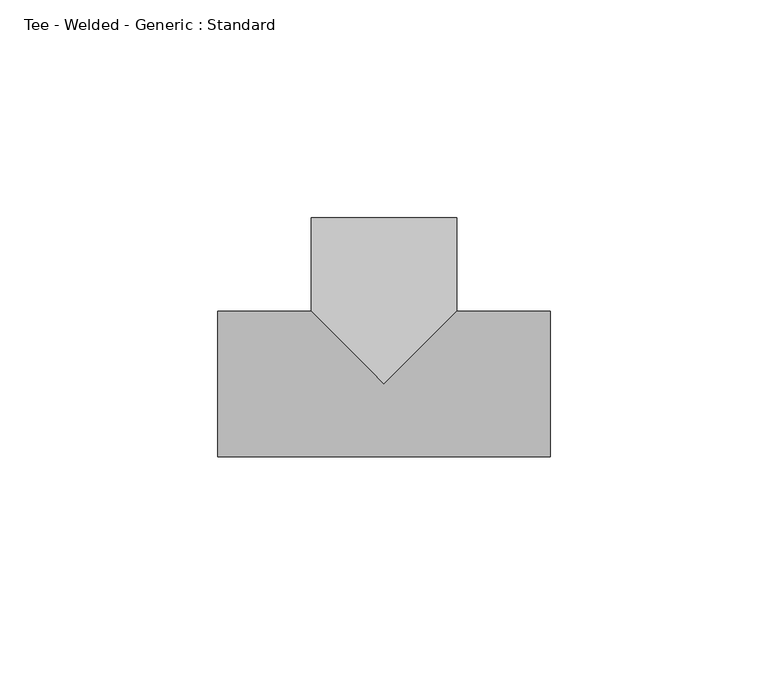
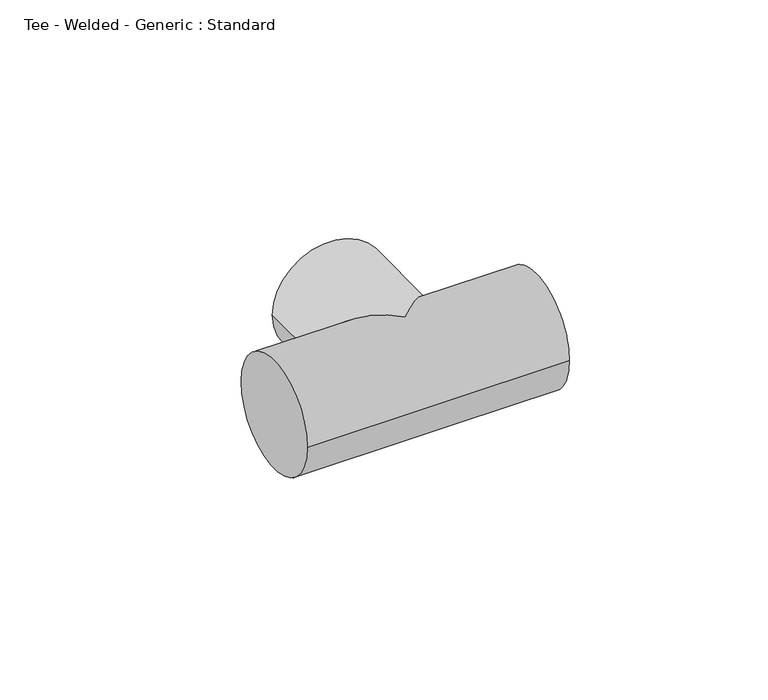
"""IFC4 building model written with IfcOpenShell, lengths in millimetres: pipe fitting geometry, Tee - Welded - Generic : Standard."""

from ifc_helpers import new_model, si_unit, frame, origin, place, context, project, spatial, circle_curve, ellipse_curve, source, transform, mapped, element, save
from ifc_brep_helpers import plane_surface, cylinder_surface, advanced_brep


def tee_welded_generic_standard_7332b987(model_context):
    return source(origin(), model_context, "Body", "AdvancedBrep", [
        advanced_brep(
        [(-38.1, 16.66875, 0.0), (-38.1, -16.66875, 0.0), (38.1, 16.66875, 0.0), (38.1, -16.66875, 0.0), (16.672995, 16.66875, 0.0), (0.0, 0.0, 16.66875), (-16.664506, 16.66875, 0.0), (0.0, 0.0, -16.66875), (-16.6590477, 38.1042433, 0.0), (16.6784512, 38.0957543, 0.0)],
        [
            (0, 1, circle_curve(frame((-38.1, 0.0, 0.0), z_axis=(-1.0, 0.0, 0.0), x_axis=(0.0, -1.0, 0.0)), 16.66875)),
            (1, 0, circle_curve(frame((-38.1, 0.0, 0.0), z_axis=(-1.0, 0.0, 0.0), x_axis=(0.0, -1.0, 0.0)), 16.66875)),
            (2, 3, circle_curve(frame((38.1, 0.0, 0.0), z_axis=(1.0, 0.0, 0.0), x_axis=(0.0, -1.0, 0.0)), 16.66875)),
            (3, 2, circle_curve(frame((38.1, 0.0, 0.0), z_axis=(1.0, 0.0, 0.0), x_axis=(0.0, -1.0, 0.0)), 16.66875)),
            (1, 3),
            (2, 4),
            (4, 5, ellipse_curve(frame((0.0, 0.0, 0.0), z_axis=(0.7070167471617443, -0.7071968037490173, 0.0), x_axis=(-0.7071968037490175, -0.7070167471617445, 0.0)), 23.5761742, 16.66875)),
            (5, 6, ellipse_curve(frame((0.0, 0.0, 0.0), z_axis=(-0.7071968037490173, -0.7070167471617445, 0.0), x_axis=(-0.7070167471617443, 0.7071968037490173, 0.0)), 23.5701716, 16.66875)),
            (6, 0),
            (6, 7, ellipse_curve(frame((0.0, 0.0, 0.0), z_axis=(-0.7071968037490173, -0.7070167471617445, 0.0), x_axis=(-0.7070167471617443, 0.7071968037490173, 0.0)), 23.5701716, 16.66875)),
            (7, 4, ellipse_curve(frame((0.0, 0.0, 0.0), z_axis=(0.7070167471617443, -0.7071968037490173, 0.0), x_axis=(-0.7071968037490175, -0.7070167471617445, 0.0)), 23.5761742, 16.66875)),
            (8, 9, circle_curve(frame((0.0097017, 38.0999988, 0.0), z_axis=(0.0002546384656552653, 0.9999999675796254, 0.0), x_axis=(0.9999999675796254, -0.0002546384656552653, 0.0)), 16.66875)),
            (9, 8, circle_curve(frame((0.0097017, 38.0999988, 0.0), z_axis=(0.0002546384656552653, 0.9999999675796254, 0.0), x_axis=(0.9999999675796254, -0.0002546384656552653, 0.0)), 16.66875)),
            (8, 6),
            (4, 9),
        ],
        [
            plane_surface(frame((-38.1, 0.0, 0.0), z_axis=(-1.0, 0.0, 0.0), x_axis=(0.0, 0.0, 1.0))),
            plane_surface(frame((38.1, 0.0, 0.0), z_axis=(1.0, 0.0, 0.0), x_axis=(0.0, 0.0, 1.0))),
            cylinder_surface(frame((-38.1, 0.0, 0.0), z_axis=(-1.0, 0.0, 0.0), x_axis=(0.0, -1.0, 0.0)), 16.66875),
            plane_surface(frame((0.0097017, 38.0999988, 0.0), z_axis=(0.0002546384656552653, 0.9999999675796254, 0.0), x_axis=(0.0, 0.0, 1.0))),
            cylinder_surface(frame((0.0, 0.0, 0.0), z_axis=(-0.0002546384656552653, -0.9999999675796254, 0.0), x_axis=(0.9999999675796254, -0.0002546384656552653, 0.0)), 16.66875),
        ],
        [
            (0, [[1, 2]]),
            (1, [[3, 4]]),
            (2, [[5, -3, 6, 7, 8, 9, -2]]),
            (2, [[-9, 10, 11, -6, -4, -5, -1]]),
            (3, [[12, 13]]),
            (4, [[14, -8, -7, 15, -12]]),
            (4, [[-15, -11, -10, -14, -13]]),
        ],
    ),
    ])


if __name__ == "__main__":
    model = new_model("IFC4")
    model_context = context("Model", 3, world=origin())
    ifc_project = project(units=[si_unit("LENGTHUNIT", "METRE", prefix="MILLI")], contexts=[model_context])
    site = spatial("IfcSite", under=ifc_project)
    building = spatial("IfcBuilding", under=site)
    placement = place(None, origin())
    tee_welded_generic_standard_shape = tee_welded_generic_standard_7332b987(model_context)
    element("IfcPipeFitting", 1, ObjectType="Tee - Welded - Generic : Standard", at=placement, inside=building, context=model_context, shape_type="MappedRepresentation", body=[
        mapped(tee_welded_generic_standard_shape, transform((0.0, 0.0, 0.0), x_axis=(1.0, 0.0, 0.0), y_axis=(0.0, 1.0, 0.0), z_axis=(0.0, 0.0, 1.0))),
    ])
    save(model, "model.ifc")
